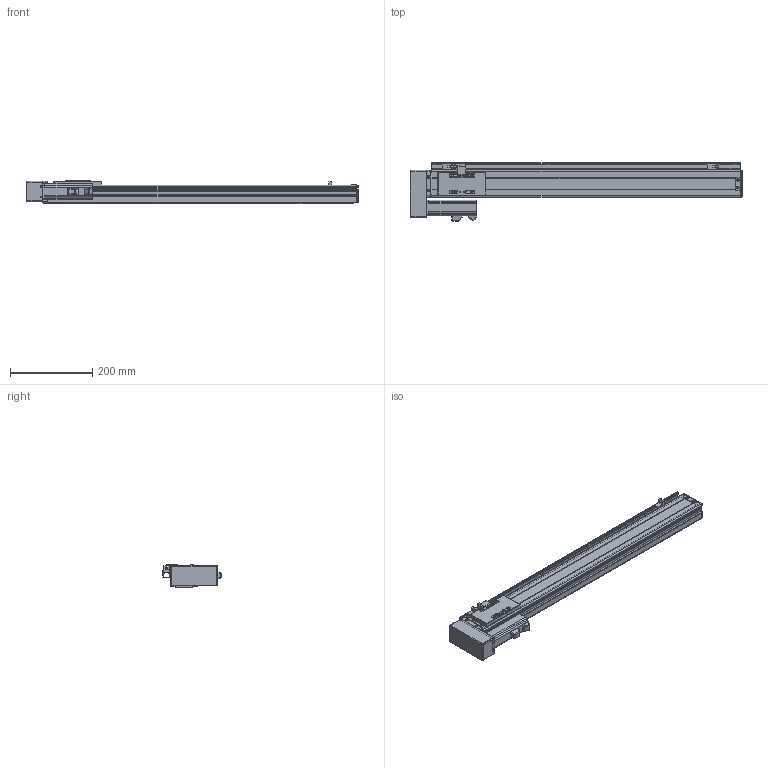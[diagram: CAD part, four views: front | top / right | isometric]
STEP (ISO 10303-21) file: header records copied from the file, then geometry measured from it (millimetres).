
FILE_DESCRIPTION (( 'STEP AP203' ), '1' );
FILE_NAME ('VT6-S600-BL.STEP', '2016-06-17T09:51:15', ( '' ), ( '' ), 'SwSTEP 2.0', 'SolidWorks 2013', '' );
FILE_SCHEMA (( 'CONFIG_CONTROL_DESIGN' ));
Length unit declared in the file: millimetre
Products named in the file (17): T6-BRL萇儂假蚾啣; T6-綴傷裔; 侂狟100W MSMD012G1V; EE-XS674; VT6-S600-BL; ET6-BLRM絳寢_俴最600; ET6-BC耜啣_600; ET6-BLRM滅鳥湍_600; ET6-BC癹弇羲壽羞_600; ET6-BLRM佪裝_600; T6-賑雄殤; T6-BMLRヶ傷裔; T6-裔啣; T6-BMRLヶ傷裔揤啣; T6-揤輸; T6-BMRL肮祭湍謫欶; T6-覜茼え
Assembly tree (19 placements, depth 2):
  VT6-S600-BL
    ET6-BC耜啣_600  x2
    ET6-BC癹弇羲壽羞_600
    T6-賑雄殤
    T6-裔啣
    T6-揤輸
    T6-覜茼え
    T6-綴傷裔
    EE-XS674  x3
    ET6-BLRM絳寢_俴最600
    ET6-BLRM滅鳥湍_600
    ET6-BLRM佪裝_600
    T6-BMLRヶ傷裔
    T6-BMRLヶ傷裔揤啣
    T6-BMRL肮祭湍謫欶
    T6-BRL萇儂假蚾啣
    侂狟100W MSMD012G1V
Bounding box: 807 x 141 x 56 mm (x, y, z)
Volume: 986866.9 mm3; surface area: 610803.2 mm2
Topology: 19 solids, 19 shells, 917 faces, 2436 edges, 1544 vertices
Faces by surface type: cylinder 443, plane 374, cone 46, torus 36, sphere 18
Entity records: 28433 total; most frequent: CARTESIAN_POINT 4777, DIRECTION 4770, ORIENTED_EDGE 4390, EDGE_CURVE 2195, AXIS2_PLACEMENT_3D 1757, VERTEX_POINT 1404, VECTOR 1256, LINE 1256
